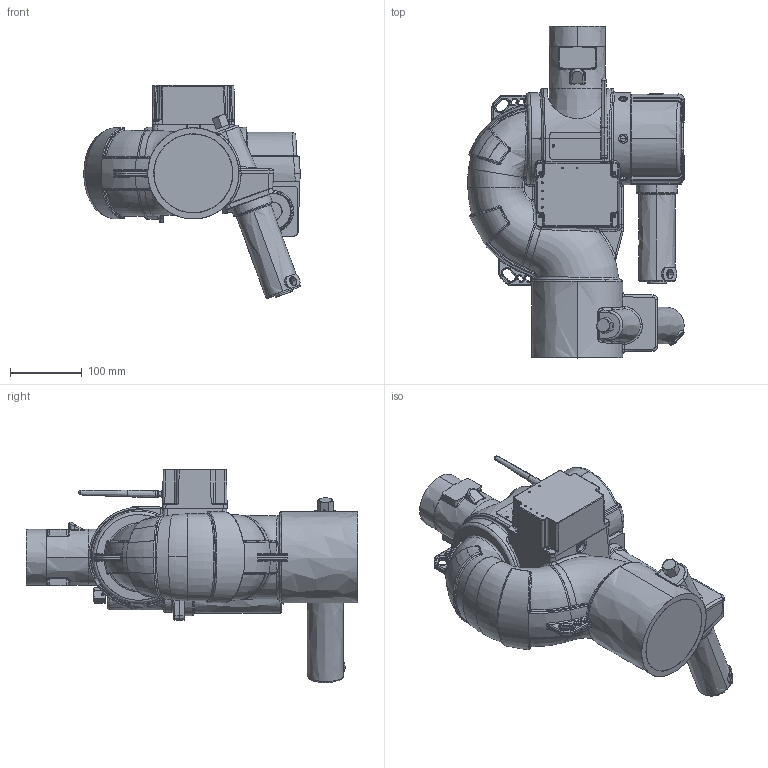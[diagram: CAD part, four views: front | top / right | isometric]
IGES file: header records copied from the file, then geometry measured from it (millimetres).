
Start section: SolidWorks IGES file using NURBS representation for surfaces
Global section: file name: C:\Jobs\Elkhart Brass\1481 Dumb Down Models\7200 HD - No Base\7200 HD - No BaseDD\7200 HD - No BaseDD.IGS; native system: SolidWorks 2013; preprocessor: SolidWorks 2013; author: RAsire; date: 131028.162143; units: inch
Bounding box: 301.35 x 462.24 x 297.16 mm (x, y, z)
Volume: 3752856.5 mm3; surface area: 612256.7 mm2
Topology: 12 solids, 12 shells, 1960 faces, 9626 edges, 8709 vertices
Faces by surface type: bspline 1960
